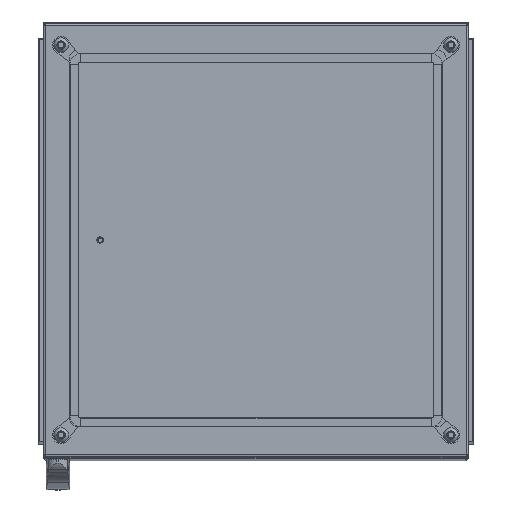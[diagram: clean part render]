
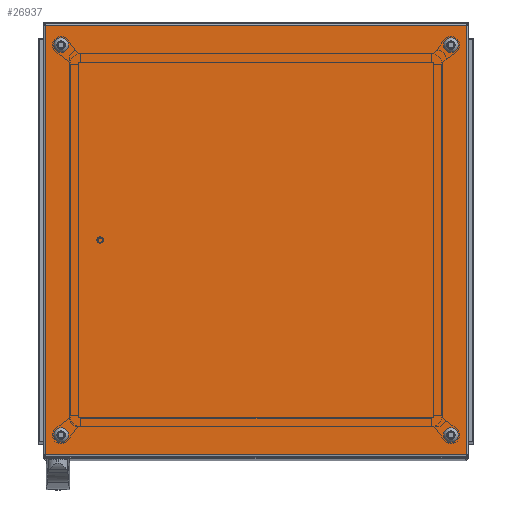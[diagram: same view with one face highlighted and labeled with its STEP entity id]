
A CAD part, top view. The second image highlights one B-rep face of the part: STEP entity #26937.
In plain terms, the highlighted planar face has unit normal (0, 0, 1).
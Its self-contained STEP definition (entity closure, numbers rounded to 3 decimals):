
#1335=CIRCLE('',#28934,6.);
#1336=CIRCLE('',#28935,6.);
#1337=CIRCLE('',#28936,6.);
#1338=CIRCLE('',#28937,6.);
#5091=ORIENTED_EDGE('',*,*,#11485,.F.);
#5092=ORIENTED_EDGE('',*,*,#11486,.F.);
#5093=ORIENTED_EDGE('',*,*,#11487,.F.);
#5094=ORIENTED_EDGE('',*,*,#11488,.F.);
#5095=ORIENTED_EDGE('',*,*,#11474,.T.);
#5096=ORIENTED_EDGE('',*,*,#11482,.T.);
#5097=ORIENTED_EDGE('',*,*,#11445,.F.);
#5098=ORIENTED_EDGE('',*,*,#11489,.F.);
#11445=EDGE_CURVE('',#14877,#14878,#17565,.T.);
#11474=EDGE_CURVE('',#14899,#14898,#17571,.T.);
#11482=EDGE_CURVE('',#14898,#14878,#17576,.T.);
#11485=EDGE_CURVE('',#14900,#14900,#1335,.T.);
#11486=EDGE_CURVE('',#14901,#14901,#1336,.T.);
#11487=EDGE_CURVE('',#14902,#14902,#1337,.T.);
#11488=EDGE_CURVE('',#14903,#14903,#1338,.T.);
#11489=EDGE_CURVE('',#14899,#14877,#17579,.T.);
#14877=VERTEX_POINT('',#42065);
#14878=VERTEX_POINT('',#42067);
#14898=VERTEX_POINT('',#42141);
#14899=VERTEX_POINT('',#42143);
#14900=VERTEX_POINT('',#42160);
#14901=VERTEX_POINT('',#42162);
#14902=VERTEX_POINT('',#42164);
#14903=VERTEX_POINT('',#42166);
#17565=LINE('',#42066,#19910);
#17571=LINE('',#42142,#19916);
#17576=LINE('',#42154,#19921);
#17579=LINE('',#42167,#19924);
#19910=VECTOR('',#33714,1000.);
#19916=VECTOR('',#33768,1000.);
#19921=VECTOR('',#33785,1000.);
#19924=VECTOR('',#33800,1000.);
#21953=EDGE_LOOP('',(#5091));
#21954=EDGE_LOOP('',(#5092));
#21955=EDGE_LOOP('',(#5093));
#21956=EDGE_LOOP('',(#5094));
#21957=EDGE_LOOP('',(#5095,#5096,#5097,#5098));
#24160=FACE_BOUND('',#21953,.T.);
#24161=FACE_BOUND('',#21954,.T.);
#24162=FACE_BOUND('',#21955,.T.);
#24163=FACE_BOUND('',#21956,.T.);
#24164=FACE_BOUND('',#21957,.T.);
#26024=PLANE('',#28933);
#26937=ADVANCED_FACE('',(#24160,#24161,#24162,#24163,#24164),#26024,.T.);
#28933=AXIS2_PLACEMENT_3D('',#42158,#33790,#33791);
#28934=AXIS2_PLACEMENT_3D('',#42159,#33792,#33793);
#28935=AXIS2_PLACEMENT_3D('',#42161,#33794,#33795);
#28936=AXIS2_PLACEMENT_3D('',#42163,#33796,#33797);
#28937=AXIS2_PLACEMENT_3D('',#42165,#33798,#33799);
#33714=DIRECTION('',(-1.,0.,0.));
#33768=DIRECTION('',(-1.,0.,0.));
#33785=DIRECTION('',(0.,-1.,0.));
#33790=DIRECTION('',(0.,0.,1.));
#33791=DIRECTION('',(1.,0.,0.));
#33792=DIRECTION('',(0.,0.,1.));
#33793=DIRECTION('',(1.,0.,0.));
#33794=DIRECTION('',(0.,0.,1.));
#33795=DIRECTION('',(1.,0.,0.));
#33796=DIRECTION('',(0.,0.,1.));
#33797=DIRECTION('',(1.,0.,0.));
#33798=DIRECTION('',(0.,0.,1.));
#33799=DIRECTION('',(1.,0.,0.));
#33800=DIRECTION('',(0.,-1.,0.));
#42065=CARTESIAN_POINT('',(296.5,-302.5,20.));
#42066=CARTESIAN_POINT('',(300.,-302.5,20.));
#42067=CARTESIAN_POINT('',(-296.5,-302.5,20.));
#42141=CARTESIAN_POINT('',(-296.5,302.5,20.));
#42142=CARTESIAN_POINT('',(300.,302.5,20.));
#42143=CARTESIAN_POINT('',(296.5,302.5,20.));
#42154=CARTESIAN_POINT('',(-296.5,305.5,20.));
#42158=CARTESIAN_POINT('',(-296.5,-302.5,20.));
#42159=CARTESIAN_POINT('',(274.5,-274.5,20.));
#42160=CARTESIAN_POINT('',(280.5,-274.5,20.));
#42161=CARTESIAN_POINT('',(-274.5,274.5,20.));
#42162=CARTESIAN_POINT('',(-268.5,274.5,20.));
#42163=CARTESIAN_POINT('',(274.5,274.5,20.));
#42164=CARTESIAN_POINT('',(280.5,274.5,20.));
#42165=CARTESIAN_POINT('',(-274.5,-274.5,20.));
#42166=CARTESIAN_POINT('',(-268.5,-274.5,20.));
#42167=CARTESIAN_POINT('',(296.5,305.5,20.));
